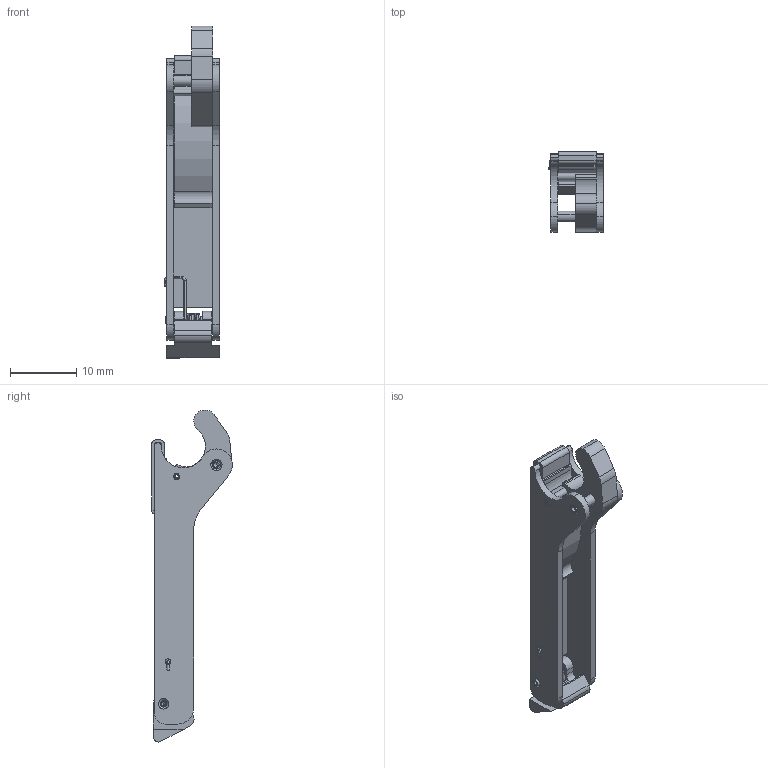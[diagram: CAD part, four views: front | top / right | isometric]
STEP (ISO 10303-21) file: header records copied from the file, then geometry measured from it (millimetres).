
FILE_DESCRIPTION (( 'STEP AP214' ), '1' );
FILE_NAME ('Single PAWL_D.STEP', '2016-08-22T14:39:12', ( '' ), ( '' ), 'SwSTEP 2.0', 'SolidWorks 2014', '' );
FILE_SCHEMA (( 'AUTOMOTIVE_DESIGN' ));
Length unit declared in the file: inch
Products named in the file (9): .032-.312 spring pin_D_93740A060; Torsion Spring__D; main pivot pin_D; Latch_PIN_D; 52102-1; Main Spring_A; Latch_D; Lever_D_New; Single PAWL_D
Assembly tree (8 placements, depth 2):
  Single PAWL_D
    Lever_D_New
    Latch_D
    Main Spring_A
    52102-1
    Latch_PIN_D
    main pivot pin_D
    Torsion Spring__D
    .032-.312 spring pin_D_93740A060
Bounding box: 8.33 x 12.19 x 50.13 mm (x, y, z)
Volume: 1238.1 mm3; surface area: 2865.5 mm2
Topology: 8 solids, 8 shells, 210 faces, 552 edges, 352 vertices
Faces by surface type: cylinder 108, plane 69, cone 21, torus 6, bspline 6
Entity records: 8527 total; most frequent: CARTESIAN_POINT 2756, DIRECTION 1200, ORIENTED_EDGE 1092, EDGE_CURVE 546, AXIS2_PLACEMENT_3D 462, VERTEX_POINT 352, VECTOR 276, LINE 276
